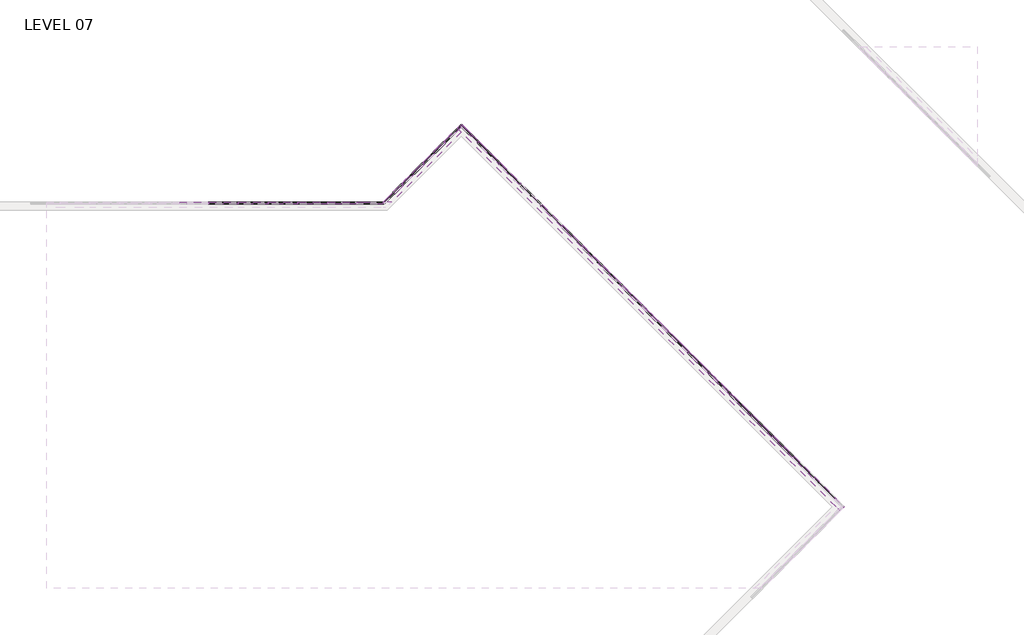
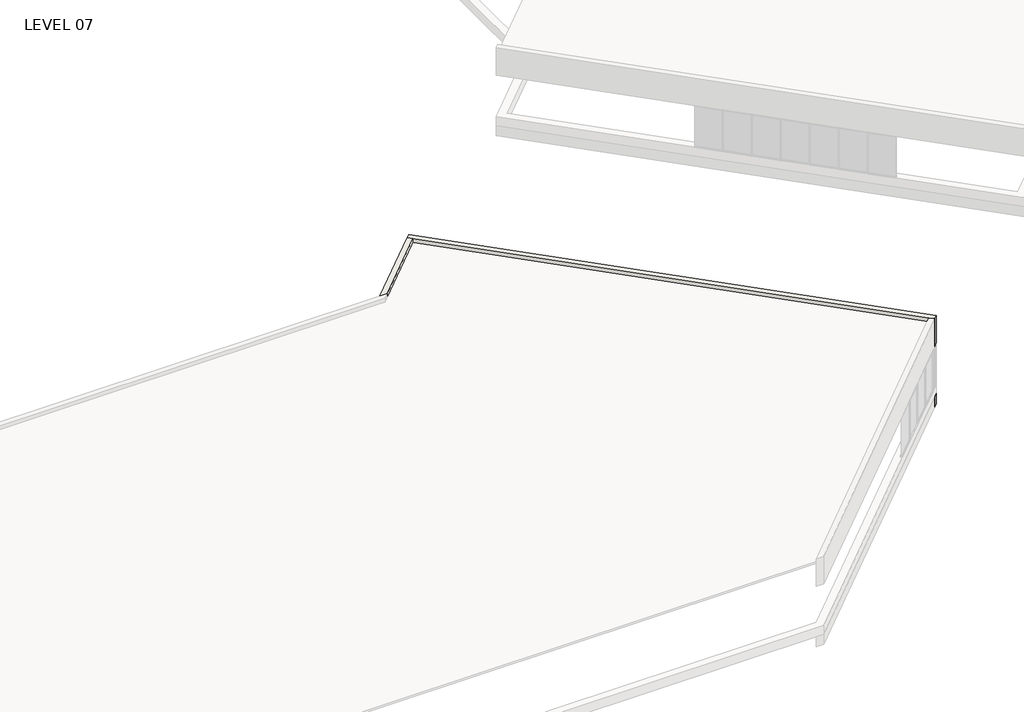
# One storey, part 9 of 18: 79 members, 27 plates, 4 walls.
"""IFC4 building model written with IfcOpenShell, lengths in millimetres."""

from ifc_helpers import new_model, si_unit, frame, origin, place, context, project, spatial, polyline, outline, extrude, faceted_brep, transform, mapped, element, save
from components import member_5247f267, member_e44af9ab, member_800970d4, member_45eb7f2e, member_910c08c9, member_dd9f6d43, plate_67294edd, plate_9c66726c, plate_88df3e37, plate_c3b8b83d, plate_129ab9d0, plate_6ecefdb5

model = new_model("IFC4")

# Units and contexts
model_context = context("Model", 3, world=origin())
ifc_project = project(units=[si_unit("LENGTHUNIT", "METRE", prefix="MILLI")], contexts=[model_context])

# Site, building, storey
site = spatial("IfcSite", under=ifc_project)
building = spatial("IfcBuilding", under=site)
storey = spatial("IfcBuildingStorey", under=building, Name="LEVEL 07", Elevation=23368.0)

# Members
placement = place(None, origin())
member_shape = member_5247f267(model_context)
element("IfcMember", 1, ObjectType="Rectangular Mullion : 2\" x 4.5\" rectangular", at=placement, inside=storey, context=model_context, shape_type="MappedRepresentation", body=[
    mapped(member_shape, transform((62072.0790246, 13049.7099831, 23368.0), x_axis=(0.0, 0.0, -1.0), y_axis=(0.7071067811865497, 0.7071067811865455, 0.0), z_axis=(0.7071067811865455, -0.7071067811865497, 0.0))),
])
element("IfcMember", 2, ObjectType="Rectangular Mullion : 2\" x 4.5\" rectangular", at=placement, inside=storey, context=model_context, shape_type="MappedRepresentation", body=[
    mapped(member_shape, transform((60994.4482901, 14127.3407176, 23368.0), x_axis=(0.0, 0.0, -1.0), y_axis=(0.707106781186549, 0.7071067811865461, 0.0), z_axis=(0.707106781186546, -0.7071067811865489, 0.0))),
])
element("IfcMember", 3, ObjectType="Rectangular Mullion : 2\" x 4.5\" rectangular", at=placement, inside=storey, context=model_context, shape_type="MappedRepresentation", body=[
    mapped(member_shape, transform((58839.186821, 16282.6021867, 23368.0), x_axis=(0.0, 0.0, -1.0), y_axis=(0.707106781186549, 0.7071067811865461, 0.0), z_axis=(0.707106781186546, -0.7071067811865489, 0.0))),
])
element("IfcMember", 4, ObjectType="Rectangular Mullion : 2\" x 4.5\" rectangular", at=placement, inside=storey, context=model_context, shape_type="MappedRepresentation", body=[
    mapped(member_shape, transform((57761.5560865, 17360.2329212, 23368.0), x_axis=(0.0, 0.0, -1.0), y_axis=(0.707106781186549, 0.7071067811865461, 0.0), z_axis=(0.7071067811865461, -0.707106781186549, 0.0))),
])
element("IfcMember", 5, ObjectType="Rectangular Mullion : 2\" x 4.5\" rectangular", at=placement, inside=storey, context=model_context, shape_type="MappedRepresentation", body=[
    mapped(member_shape, transform((56683.925352, 18437.8636558, 23368.0), x_axis=(0.0, 0.0, -1.0), y_axis=(0.707106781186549, 0.7071067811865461, 0.0), z_axis=(0.707106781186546, -0.7071067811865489, 0.0))),
])
element("IfcMember", 6, ObjectType="Rectangular Mullion : 2\" x 4.5\" rectangular", at=placement, inside=storey, context=model_context, shape_type="MappedRepresentation", body=[
    mapped(member_shape, transform((53451.3904937, 21670.3985141, 23368.0), x_axis=(0.0, 0.0, -1.0), y_axis=(0.7071067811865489, 0.7071067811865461, 0.0), z_axis=(0.7071067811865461, -0.7071067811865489, 0.0))),
])
element("IfcMember", 7, ObjectType="Rectangular Mullion : 2\" x 4.5\" rectangular", at=placement, inside=storey, context=model_context, shape_type="MappedRepresentation", body=[
    mapped(member_shape, transform((52373.7597592, 22748.0292486, 23368.0), x_axis=(0.0, 0.0, -1.0), y_axis=(0.7071067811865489, 0.7071067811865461, 0.0), z_axis=(0.7071067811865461, -0.7071067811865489, 0.0))),
])
element("IfcMember", 8, ObjectType="Rectangular Mullion : 2\" x 4.5\" rectangular", at=placement, inside=storey, context=model_context, shape_type="MappedRepresentation", body=[
    mapped(member_shape, transform((51296.1290246, 23825.6599831, 23368.0), x_axis=(0.0, 0.0, -1.0), y_axis=(0.707106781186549, 0.7071067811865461, 0.0), z_axis=(0.707106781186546, -0.7071067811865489, 0.0))),
])
element("IfcMember", 9, ObjectType="Rectangular Mullion : 2\" x 4.5\" rectangular", at=placement, inside=storey, context=model_context, shape_type="MappedRepresentation", body=[
    mapped(member_shape, transform((59916.8175556, 15204.9714522, 23368.0), x_axis=(0.0, 0.0, -1.0), y_axis=(0.707106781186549, 0.7071067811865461, 0.0), z_axis=(0.707106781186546, -0.7071067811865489, 0.0))),
])
element("IfcMember", 10, ObjectType="Rectangular Mullion : 2\" x 4.5\" rectangular", at=placement, inside=storey, context=model_context, shape_type="MappedRepresentation", body=[
    mapped(member_shape, transform((49140.8675556, 25980.9214522, 23368.0), x_axis=(0.0, 0.0, -1.0), y_axis=(0.707106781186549, 0.7071067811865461, 0.0), z_axis=(0.7071067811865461, -0.707106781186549, 0.0))),
])
element("IfcMember", 11, ObjectType="Rectangular Mullion : 2\" x 4.5\" rectangular", at=placement, inside=storey, context=model_context, shape_type="MappedRepresentation", body=[
    mapped(member_shape, transform((46985.6060865, 28136.1829212, 23368.0), x_axis=(0.0, 0.0, -1.0), y_axis=(0.7071067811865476, 0.7071067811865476, 0.0), z_axis=(0.7071067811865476, -0.7071067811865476, 0.0))),
])
element("IfcMember", 12, ObjectType="Rectangular Mullion : 2\" x 4.5\" rectangular", at=placement, inside=storey, context=model_context, shape_type="MappedRepresentation", body=[
    mapped(member_shape, transform((44188.0075145, 29177.8965222, 23368.0), x_axis=(0.0, 0.0, -1.0), y_axis=(-0.7071067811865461, 0.7071067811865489, 0.0), z_axis=(0.7071067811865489, 0.7071067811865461, 0.0))),
])
element("IfcMember", 13, ObjectType="Rectangular Mullion : 2\" x 4.5\" rectangular", at=placement, inside=storey, context=model_context, shape_type="MappedRepresentation", body=[
    mapped(member_shape, transform((43110.3767799, 28100.2657877, 23368.0), x_axis=(0.0, 0.0, -1.0), y_axis=(-0.7071067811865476, 0.7071067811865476, 0.0), z_axis=(0.7071067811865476, 0.7071067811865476, 0.0))),
])
element("IfcMember", 14, ObjectType="Rectangular Mullion : 2\" x 4.5\" rectangular", at=placement, inside=storey, context=model_context, shape_type="MappedRepresentation", body=[
    mapped(member_shape, transform((32137.35, 26080.1328721, 23368.0), x_axis=(0.0, 0.0, -1.0), y_axis=(0.0, -1.0, 0.0), z_axis=(-1.0, 0.0, 0.0))),
])
element("IfcMember", 15, ObjectType="Rectangular Mullion : 2\" x 4.5\" rectangular", at=placement, inside=storey, context=model_context, shape_type="MappedRepresentation", body=[
    mapped(member_shape, transform((35185.35, 26080.1328721, 23368.0), x_axis=(0.0, 0.0, -1.0), y_axis=(0.0, -1.0, 0.0), z_axis=(-1.0, 0.0, 0.0))),
])
element("IfcMember", 16, ObjectType="Rectangular Mullion : 2\" x 4.5\" rectangular", at=placement, inside=storey, context=model_context, shape_type="MappedRepresentation", body=[
    mapped(member_shape, transform((36709.35, 26080.1328721, 23368.0), x_axis=(0.0, 0.0, -1.0), y_axis=(0.0, -1.0, 0.0), z_axis=(-1.0, 0.0, 0.0))),
])
element("IfcMember", 17, ObjectType="Rectangular Mullion : 2\" x 4.5\" rectangular", at=placement, inside=storey, context=model_context, shape_type="MappedRepresentation", body=[
    mapped(member_shape, transform((38233.35, 26080.1328721, 23368.0), x_axis=(0.0, 0.0, -1.0), y_axis=(0.0, -1.0, 0.0), z_axis=(-1.0, 0.0, 0.0))),
])
element("IfcMember", 18, ObjectType="Rectangular Mullion : 2\" x 4.5\" rectangular", at=placement, inside=storey, context=model_context, shape_type="MappedRepresentation", body=[
    mapped(member_shape, transform((33661.35, 26080.1328721, 23368.0), x_axis=(0.0, 0.0, -1.0), y_axis=(0.0, -1.0, 0.0), z_axis=(-1.0, 0.0, 0.0))),
])
element("IfcMember", 19, ObjectType="Rectangular Mullion : 2\" x 4.5\" rectangular", at=placement, inside=storey, context=model_context, shape_type="MappedRepresentation", body=[
    mapped(member_shape, transform((62108.0000491, 13013.7889586, 25958.8), x_axis=(0.0, 0.0, 1.0), y_axis=(0.7071067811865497, 0.7071067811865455, 0.0), z_axis=(-0.7071067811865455, 0.7071067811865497, 0.0))),
])
element("IfcMember", 20, ObjectType="Rectangular Mullion : 2\" x 4.5\" rectangular", at=placement, inside=storey, context=model_context, shape_type="MappedRepresentation", body=[
    mapped(member_shape, transform((61030.3693146, 14091.4196932, 25958.8), x_axis=(0.0, 0.0, 1.0), y_axis=(0.7071067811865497, 0.7071067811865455, 0.0), z_axis=(-0.7071067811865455, 0.7071067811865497, 0.0))),
])
element("IfcMember", 21, ObjectType="Rectangular Mullion : 2\" x 4.5\" rectangular", at=placement, inside=storey, context=model_context, shape_type="MappedRepresentation", body=[
    mapped(member_shape, transform((58875.1078455, 16246.6811622, 25958.8), x_axis=(0.0, 0.0, 1.0), y_axis=(0.707106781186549, 0.7071067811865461, 0.0), z_axis=(-0.707106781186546, 0.7071067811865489, 0.0))),
])
element("IfcMember", 22, ObjectType="Rectangular Mullion : 2\" x 4.5\" rectangular", at=placement, inside=storey, context=model_context, shape_type="MappedRepresentation", body=[
    mapped(member_shape, transform((57797.477111, 17324.3118967, 25958.8), x_axis=(0.0, 0.0, 1.0), y_axis=(0.707106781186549, 0.7071067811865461, 0.0), z_axis=(-0.707106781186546, 0.7071067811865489, 0.0))),
])
element("IfcMember", 23, ObjectType="Rectangular Mullion : 2\" x 4.5\" rectangular", at=placement, inside=storey, context=model_context, shape_type="MappedRepresentation", body=[
    mapped(member_shape, transform((56719.8463765, 18401.9426313, 25958.8), x_axis=(0.0, 0.0, 1.0), y_axis=(0.7071067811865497, 0.7071067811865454, 0.0), z_axis=(-0.7071067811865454, 0.7071067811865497, 0.0))),
])
element("IfcMember", 24, ObjectType="Rectangular Mullion : 2\" x 4.5\" rectangular", at=placement, inside=storey, context=model_context, shape_type="MappedRepresentation", body=[
    mapped(member_shape, transform((55642.2156419, 19479.5733658, 25958.8), x_axis=(0.0, 0.0, 1.0), y_axis=(0.7071067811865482, 0.7071067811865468, 0.0), z_axis=(-0.7071067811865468, 0.7071067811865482, 0.0))),
])
element("IfcMember", 25, ObjectType="Rectangular Mullion : 2\" x 4.5\" rectangular", at=placement, inside=storey, context=model_context, shape_type="MappedRepresentation", body=[
    mapped(member_shape, transform((52409.6807836, 22712.1082241, 25958.8), x_axis=(0.0, 0.0, 1.0), y_axis=(0.7071067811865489, 0.7071067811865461, 0.0), z_axis=(-0.7071067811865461, 0.7071067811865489, 0.0))),
])
element("IfcMember", 26, ObjectType="Rectangular Mullion : 2\" x 4.5\" rectangular", at=placement, inside=storey, context=model_context, shape_type="MappedRepresentation", body=[
    mapped(member_shape, transform((51332.0500491, 23789.7389586, 25958.8), x_axis=(0.0, 0.0, 1.0), y_axis=(0.7071067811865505, 0.7071067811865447, 0.0), z_axis=(-0.7071067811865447, 0.7071067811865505, 0.0))),
])
element("IfcMember", 27, ObjectType="Rectangular Mullion : 2\" x 4.5\" rectangular", at=placement, inside=storey, context=model_context, shape_type="MappedRepresentation", body=[
    mapped(member_shape, transform((59952.7385801, 15169.0504277, 25958.8), x_axis=(0.0, 0.0, 1.0), y_axis=(0.707106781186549, 0.7071067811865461, 0.0), z_axis=(-0.707106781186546, 0.7071067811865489, 0.0))),
])
element("IfcMember", 28, ObjectType="Rectangular Mullion : 2\" x 4.5\" rectangular", at=placement, inside=storey, context=model_context, shape_type="MappedRepresentation", body=[
    mapped(member_shape, transform((50254.4193146, 24867.3696932, 25958.8), x_axis=(0.0, 0.0, 1.0), y_axis=(0.7071067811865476, 0.7071067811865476, 0.0), z_axis=(-0.7071067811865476, 0.7071067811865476, 0.0))),
])
element("IfcMember", 29, ObjectType="Rectangular Mullion : 2\" x 4.5\" rectangular", at=placement, inside=storey, context=model_context, shape_type="MappedRepresentation", body=[
    mapped(member_shape, transform((49176.7885801, 25945.0004277, 25958.8), x_axis=(0.0, 0.0, 1.0), y_axis=(0.707106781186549, 0.7071067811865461, 0.0), z_axis=(-0.707106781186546, 0.7071067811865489, 0.0))),
])
element("IfcMember", 30, ObjectType="Rectangular Mullion : 2\" x 4.5\" rectangular", at=placement, inside=storey, context=model_context, shape_type="MappedRepresentation", body=[
    mapped(member_shape, transform((47021.527111, 28100.2618967, 25958.8), x_axis=(0.0, 0.0, 1.0), y_axis=(0.7071067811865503, 0.7071067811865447, 0.0), z_axis=(-0.7071067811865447, 0.7071067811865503, 0.0))),
])
element("IfcMember", 31, ObjectType="Rectangular Mullion : 2\" x 4.5\" rectangular", at=placement, inside=storey, context=model_context, shape_type="MappedRepresentation", body=[
    mapped(member_shape, transform((45943.8963765, 29177.8926313, 25958.8), x_axis=(0.0, 0.0, 1.0), y_axis=(0.7071067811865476, 0.7071067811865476, 0.0), z_axis=(-0.7071067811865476, 0.7071067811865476, 0.0))),
])
element("IfcMember", 32, ObjectType="Rectangular Mullion : 2\" x 4.5\" rectangular", at=placement, inside=storey, context=model_context, shape_type="MappedRepresentation", body=[
    mapped(member_shape, transform((42068.6670699, 27058.5560776, 25958.8), x_axis=(0.0, 0.0, 1.0), y_axis=(-0.7071067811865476, 0.7071067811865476, 0.0), z_axis=(-0.7071067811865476, -0.7071067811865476, 0.0))),
])
element("IfcMember", 33, ObjectType="Rectangular Mullion : 2\" x 4.5\" rectangular", at=placement, inside=storey, context=model_context, shape_type="MappedRepresentation", body=[
    mapped(member_shape, transform((43146.2978044, 28136.1868122, 25958.8), x_axis=(0.0, 0.0, 1.0), y_axis=(-0.7071067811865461, 0.7071067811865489, 0.0), z_axis=(-0.7071067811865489, -0.7071067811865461, 0.0))),
])
element("IfcMember", 34, ObjectType="Rectangular Mullion : 2\" x 4.5\" rectangular", at=placement, inside=storey, context=model_context, shape_type="MappedRepresentation", body=[
    mapped(member_shape, transform((32086.55, 26080.1328721, 25958.8), x_axis=(0.0, 0.0, 1.0), y_axis=(0.0, -1.0, 0.0), z_axis=(1.0, 0.0, 0.0))),
])
element("IfcMember", 35, ObjectType="Rectangular Mullion : 2\" x 4.5\" rectangular", at=placement, inside=storey, context=model_context, shape_type="MappedRepresentation", body=[
    mapped(member_shape, transform((35134.55, 26080.1328721, 25958.8), x_axis=(0.0, 0.0, 1.0), y_axis=(0.0, -1.0, 0.0), z_axis=(1.0, 0.0, 0.0))),
])
element("IfcMember", 36, ObjectType="Rectangular Mullion : 2\" x 4.5\" rectangular", at=placement, inside=storey, context=model_context, shape_type="MappedRepresentation", body=[
    mapped(member_shape, transform((36658.55, 26080.1328721, 25958.8), x_axis=(0.0, 0.0, 1.0), y_axis=(0.0, -1.0, 0.0), z_axis=(1.0, 0.0, 0.0))),
])
element("IfcMember", 37, ObjectType="Rectangular Mullion : 2\" x 4.5\" rectangular", at=placement, inside=storey, context=model_context, shape_type="MappedRepresentation", body=[
    mapped(member_shape, transform((38182.55, 26080.1328721, 25958.8), x_axis=(0.0, 0.0, 1.0), y_axis=(0.0, -1.0, 0.0), z_axis=(1.0, 0.0, 0.0))),
])
element("IfcMember", 38, ObjectType="Rectangular Mullion : 2\" x 4.5\" rectangular", at=placement, inside=storey, context=model_context, shape_type="MappedRepresentation", body=[
    mapped(member_shape, transform((39706.55, 26080.1328721, 25958.8), x_axis=(0.0, 0.0, 1.0), y_axis=(0.0, -1.0, 0.0), z_axis=(1.0, 0.0, 0.0))),
])
element("IfcMember", 39, ObjectType="Rectangular Mullion : 2\" x 4.5\" rectangular", at=placement, inside=storey, context=model_context, shape_type="MappedRepresentation", body=[
    mapped(member_shape, transform((33610.55, 26080.1328721, 25958.8), x_axis=(0.0, 0.0, 1.0), y_axis=(0.0, -1.0, 0.0), z_axis=(1.0, 0.0, 0.0))),
])
member_2_shape = member_e44af9ab(model_context)
element("IfcMember", 40, ObjectType="Rectangular Mullion : 2\" x 4.5\" rectangular", at=placement, inside=storey, context=model_context, shape_type="MappedRepresentation", body=[
    mapped(member_2_shape, transform((63167.6702714, 11954.1187363, 23368.0), x_axis=(-0.7071067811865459, 0.7071067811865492, 0.0), y_axis=(0.7071067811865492, 0.7071067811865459, 0.0), z_axis=(0.0, 0.0, -1.0))),
])
element("IfcMember", 41, ObjectType="Rectangular Mullion : 2\" x 4.5\" rectangular", at=placement, inside=storey, context=model_context, shape_type="MappedRepresentation", body=[
    mapped(member_2_shape, transform((62090.0395369, 13031.7494709, 23368.0), x_axis=(-0.7071067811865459, 0.7071067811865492, 0.0), y_axis=(0.7071067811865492, 0.7071067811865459, 0.0), z_axis=(0.0, 0.0, -1.0))),
])
element("IfcMember", 42, ObjectType="Rectangular Mullion : 2\" x 4.5\" rectangular", at=placement, inside=storey, context=model_context, shape_type="MappedRepresentation", body=[
    mapped(member_2_shape, transform((61012.4088023, 14109.3802054, 23368.0), x_axis=(-0.7071067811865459, 0.7071067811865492, 0.0), y_axis=(0.7071067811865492, 0.7071067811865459, 0.0), z_axis=(0.0, 0.0, -1.0))),
])
element("IfcMember", 43, ObjectType="Rectangular Mullion : 2\" x 4.5\" rectangular", at=placement, inside=storey, context=model_context, shape_type="MappedRepresentation", body=[
    mapped(member_2_shape, transform((58857.1473333, 16264.6416745, 23368.0), x_axis=(-0.7071067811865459, 0.7071067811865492, 0.0), y_axis=(0.7071067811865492, 0.7071067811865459, 0.0), z_axis=(0.0, 0.0, -1.0))),
])
element("IfcMember", 44, ObjectType="Rectangular Mullion : 2\" x 4.5\" rectangular", at=placement, inside=storey, context=model_context, shape_type="MappedRepresentation", body=[
    mapped(member_2_shape, transform((57779.5165988, 17342.272409, 23368.0), x_axis=(-0.7071067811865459, 0.7071067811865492, 0.0), y_axis=(0.7071067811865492, 0.7071067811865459, 0.0), z_axis=(0.0, 0.0, -1.0))),
])
element("IfcMember", 45, ObjectType="Rectangular Mullion : 2\" x 4.5\" rectangular", at=placement, inside=storey, context=model_context, shape_type="MappedRepresentation", body=[
    mapped(member_2_shape, transform((56701.8858642, 18419.9031435, 23368.0), x_axis=(-0.7071067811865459, 0.7071067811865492, 0.0), y_axis=(0.7071067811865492, 0.7071067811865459, 0.0), z_axis=(0.0, 0.0, -1.0))),
])
element("IfcMember", 46, ObjectType="Rectangular Mullion : 2\" x 4.5\" rectangular", at=placement, inside=storey, context=model_context, shape_type="MappedRepresentation", body=[
    mapped(member_2_shape, transform((55624.2551297, 19497.533878, 23368.0), x_axis=(-0.7071067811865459, 0.7071067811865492, 0.0), y_axis=(0.7071067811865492, 0.7071067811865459, 0.0), z_axis=(0.0, 0.0, -1.0))),
])
element("IfcMember", 47, ObjectType="Rectangular Mullion : 2\" x 4.5\" rectangular", at=placement, inside=storey, context=model_context, shape_type="MappedRepresentation", body=[
    mapped(member_2_shape, transform((53469.3510059, 21652.4380018, 23368.0), x_axis=(-0.7071067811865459, 0.7071067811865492, 0.0), y_axis=(0.7071067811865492, 0.7071067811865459, 0.0), z_axis=(0.0, 0.0, -1.0))),
])
element("IfcMember", 48, ObjectType="Rectangular Mullion : 2\" x 4.5\" rectangular", at=placement, inside=storey, context=model_context, shape_type="MappedRepresentation", body=[
    mapped(member_2_shape, transform((52391.7202714, 22730.0687363, 23368.0), x_axis=(-0.7071067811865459, 0.7071067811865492, 0.0), y_axis=(0.7071067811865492, 0.7071067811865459, 0.0), z_axis=(0.0, 0.0, -1.0))),
])
element("IfcMember", 49, ObjectType="Rectangular Mullion : 2\" x 4.5\" rectangular", at=placement, inside=storey, context=model_context, shape_type="MappedRepresentation", body=[
    mapped(member_2_shape, transform((51314.0895369, 23807.6994709, 23368.0), x_axis=(-0.7071067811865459, 0.7071067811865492, 0.0), y_axis=(0.7071067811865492, 0.7071067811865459, 0.0), z_axis=(0.0, 0.0, -1.0))),
])
element("IfcMember", 50, ObjectType="Rectangular Mullion : 2\" x 4.5\" rectangular", at=placement, inside=storey, context=model_context, shape_type="MappedRepresentation", body=[
    mapped(member_2_shape, transform((59934.7780678, 15187.0109399, 23368.0), x_axis=(-0.7071067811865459, 0.7071067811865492, 0.0), y_axis=(0.7071067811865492, 0.7071067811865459, 0.0), z_axis=(0.0, 0.0, -1.0))),
])
element("IfcMember", 51, ObjectType="Rectangular Mullion : 2\" x 4.5\" rectangular", at=placement, inside=storey, context=model_context, shape_type="MappedRepresentation", body=[
    mapped(member_2_shape, transform((54546.8030678, 20574.9859399, 23368.0), x_axis=(-0.7071067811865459, 0.7071067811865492, 0.0), y_axis=(0.7071067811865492, 0.7071067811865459, 0.0), z_axis=(0.0, 0.0, -1.0))),
])
element("IfcMember", 52, ObjectType="Rectangular Mullion : 2\" x 4.5\" rectangular", at=placement, inside=storey, context=model_context, shape_type="MappedRepresentation", body=[
    mapped(member_2_shape, transform((49158.8280678, 25962.9609399, 23368.0), x_axis=(-0.7071067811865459, 0.7071067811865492, 0.0), y_axis=(0.7071067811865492, 0.7071067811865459, 0.0), z_axis=(0.0, 0.0, -1.0))),
])
element("IfcMember", 53, ObjectType="Rectangular Mullion : 2\" x 4.5\" rectangular", at=placement, inside=storey, context=model_context, shape_type="MappedRepresentation", body=[
    mapped(member_2_shape, transform((47003.5665988, 28118.222409, 23368.0), x_axis=(-0.7071067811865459, 0.7071067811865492, 0.0), y_axis=(0.7071067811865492, 0.7071067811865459, 0.0), z_axis=(0.0, 0.0, -1.0))),
])
element("IfcMember", 54, ObjectType="Rectangular Mullion : 2\" x 4.5\" rectangular", at=placement, inside=storey, context=model_context, shape_type="MappedRepresentation", body=[
    mapped(member_2_shape, transform((45925.9358642, 29195.8531435, 23368.0), x_axis=(-0.7071067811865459, 0.7071067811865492, 0.0), y_axis=(0.7071067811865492, 0.7071067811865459, 0.0), z_axis=(0.0, 0.0, -1.0))),
])
element("IfcMember", 55, ObjectType="Rectangular Mullion : 2\" x 4.5\" rectangular", at=placement, inside=storey, context=model_context, shape_type="MappedRepresentation", body=[
    mapped(member_2_shape, transform((44205.9680267, 29195.8570344, 23368.0), x_axis=(-0.7071067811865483, -0.7071067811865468, 0.0), y_axis=(-0.7071067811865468, 0.7071067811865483, 0.0), z_axis=(0.0, 0.0, -1.0))),
])
element("IfcMember", 56, ObjectType="Rectangular Mullion : 2\" x 4.5\" rectangular", at=placement, inside=storey, context=model_context, shape_type="MappedRepresentation", body=[
    mapped(member_2_shape, transform((42050.7065576, 27040.5955654, 23368.0), x_axis=(-0.7071067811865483, -0.7071067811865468, 0.0), y_axis=(-0.7071067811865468, 0.7071067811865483, 0.0), z_axis=(0.0, 0.0, -1.0))),
])
element("IfcMember", 57, ObjectType="Rectangular Mullion : 2\" x 4.5\" rectangular", at=placement, inside=storey, context=model_context, shape_type="MappedRepresentation", body=[
    mapped(member_2_shape, transform((43128.3372922, 28118.2262999, 23368.0), x_axis=(-0.7071067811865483, -0.7071067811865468, 0.0), y_axis=(-0.7071067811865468, 0.7071067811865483, 0.0), z_axis=(0.0, 0.0, -1.0))),
])
element("IfcMember", 58, ObjectType="Rectangular Mullion : 2\" x 4.5\" rectangular", at=placement, inside=storey, context=model_context, shape_type="MappedRepresentation", body=[
    mapped(member_2_shape, transform((32111.95, 26080.1328721, 23368.0), x_axis=(1.0, 0.0, 0.0), y_axis=(0.0, -1.0, 0.0), z_axis=(0.0, 0.0, -1.0))),
])
element("IfcMember", 59, ObjectType="Rectangular Mullion : 2\" x 4.5\" rectangular", at=placement, inside=storey, context=model_context, shape_type="MappedRepresentation", body=[
    mapped(member_2_shape, transform((35159.95, 26080.1328721, 23368.0), x_axis=(1.0, 0.0, 0.0), y_axis=(0.0, -1.0, 0.0), z_axis=(0.0, 0.0, -1.0))),
])
element("IfcMember", 60, ObjectType="Rectangular Mullion : 2\" x 4.5\" rectangular", at=placement, inside=storey, context=model_context, shape_type="MappedRepresentation", body=[
    mapped(member_2_shape, transform((36683.95, 26080.1328721, 23368.0), x_axis=(1.0, 0.0, 0.0), y_axis=(0.0, -1.0, 0.0), z_axis=(0.0, 0.0, -1.0))),
])
element("IfcMember", 61, ObjectType="Rectangular Mullion : 2\" x 4.5\" rectangular", at=placement, inside=storey, context=model_context, shape_type="MappedRepresentation", body=[
    mapped(member_2_shape, transform((38207.95, 26080.1328721, 23368.0), x_axis=(1.0, 0.0, 0.0), y_axis=(0.0, -1.0, 0.0), z_axis=(0.0, 0.0, -1.0))),
])
element("IfcMember", 62, ObjectType="Rectangular Mullion : 2\" x 4.5\" rectangular", at=placement, inside=storey, context=model_context, shape_type="MappedRepresentation", body=[
    mapped(member_2_shape, transform((39731.95, 26080.1328721, 23368.0), x_axis=(1.0, 0.0, 0.0), y_axis=(0.0, -1.0, 0.0), z_axis=(0.0, 0.0, -1.0))),
])
element("IfcMember", 63, ObjectType="Rectangular Mullion : 2\" x 4.5\" rectangular", at=placement, inside=storey, context=model_context, shape_type="MappedRepresentation", body=[
    mapped(member_2_shape, transform((33635.95, 26080.1328721, 23368.0), x_axis=(1.0, 0.0, 0.0), y_axis=(0.0, -1.0, 0.0), z_axis=(0.0, 0.0, -1.0))),
])
member_3_shape = member_800970d4(model_context)
element("IfcMember", 64, ObjectType="Rectangular Mullion : 2\" x 4.5\" rectangular", at=placement, inside=storey, context=model_context, shape_type="MappedRepresentation", body=[
    mapped(member_3_shape, transform((45065.95, 30055.8390077, 23368.0), x_axis=(-0.7071067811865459, 0.7071067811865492, 0.0), y_axis=(0.7071067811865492, 0.7071067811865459, 0.0), z_axis=(0.0, 0.0, -1.0))),
])
element("IfcMember", 65, ObjectType="Rectangular Mullion : 2\" x 4.5\" rectangular", at=placement, inside=storey, context=model_context, shape_type="MappedRepresentation", body=[
    mapped(member_3_shape, transform((41090.2438644, 26080.1328721, 23368.0), x_axis=(-0.7071067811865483, -0.7071067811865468, 0.0), y_axis=(-0.7071067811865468, 0.7071067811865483, 0.0), z_axis=(0.0, 0.0, -1.0))),
])
element("IfcMember", 66, ObjectType="Rectangular Mullion : 2\" x 4.5\" rectangular", at=placement, inside=storey, context=model_context, shape_type="MappedRepresentation", body=[
    mapped(member_3_shape, transform((41090.2438644, 26080.1328721, 23368.0), x_axis=(1.0, 0.0, 0.0), y_axis=(0.0, -1.0, 0.0), z_axis=(0.0, 0.0, -1.0))),
])
element("IfcMember", 67, ObjectType="Rectangular Mullion : 2\" x 4.5\" rectangular", at=placement, inside=storey, context=model_context, shape_type="MappedRepresentation", body=[
    mapped(member_3_shape, transform((45065.95, 30055.8390077, 25958.8), x_axis=(0.7071067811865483, 0.7071067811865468, 0.0), y_axis=(-0.7071067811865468, 0.7071067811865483, 0.0), z_axis=(0.0, 0.0, 1.0))),
])
member_4_shape = member_45eb7f2e(model_context)
element("IfcMember", 68, ObjectType="Rectangular Mullion : 2\" x 4.5\" rectangular", at=placement, inside=storey, context=model_context, shape_type="MappedRepresentation", body=[
    mapped(member_4_shape, transform((41126.1648889, 26116.0538966, 25958.8), x_axis=(0.0, 0.0, 1.0), y_axis=(-0.7071067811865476, 0.7071067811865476, 0.0), z_axis=(-0.7071067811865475, -0.7071067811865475, 0.0))),
])
element("IfcMember", 69, ObjectType="Rectangular Mullion : 2\" x 4.5\" rectangular", at=placement, inside=storey, context=model_context, shape_type="MappedRepresentation", body=[
    mapped(member_4_shape, transform((41039.4438644, 26080.1328721, 25958.8), x_axis=(0.0, 0.0, 1.0), y_axis=(0.0, -1.0, 0.0), z_axis=(1.0, 0.0, 0.0))),
])
element("IfcMember", 70, ObjectType="Rectangular Mullion : 2\" x 4.5\" rectangular", at=placement, inside=storey, context=model_context, shape_type="MappedRepresentation", body=[
    mapped(member_4_shape, transform((42032.7460454, 27022.6350531, 23368.0), x_axis=(0.0, 0.0, -1.0), y_axis=(-0.7071067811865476, 0.7071067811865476, 0.0), z_axis=(0.7071067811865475, 0.7071067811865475, 0.0))),
])
element("IfcMember", 71, ObjectType="Rectangular Mullion : 2\" x 4.5\" rectangular", at=placement, inside=storey, context=model_context, shape_type="MappedRepresentation", body=[
    mapped(member_4_shape, transform((39757.35, 26080.1328721, 23368.0), x_axis=(0.0, 0.0, -1.0), y_axis=(0.0, -1.0, 0.0), z_axis=(-1.0, 0.0, 0.0))),
])
member_5_shape = member_910c08c9(model_context)
element("IfcMember", 72, ObjectType="Rectangular Mullion : 2\" x 4.5\" rectangular", at=placement, inside=storey, context=model_context, shape_type="MappedRepresentation", body=[
    mapped(member_5_shape, transform((53487.3115182, 21634.4774896, 25958.8), x_axis=(0.0, 0.0, 1.0), y_axis=(0.707106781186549, 0.7071067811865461, 0.0), z_axis=(-0.7071067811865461, 0.707106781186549, 0.0))),
])
element("IfcMember", 73, ObjectType="Rectangular Mullion : 2\" x 4.5\" rectangular", at=placement, inside=storey, context=model_context, shape_type="MappedRepresentation", body=[
    mapped(member_5_shape, transform((54564.7635801, 20557.0254277, 25958.8), x_axis=(0.0, 0.0, 1.0), y_axis=(0.7071067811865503, 0.7071067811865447, 0.0), z_axis=(-0.7071067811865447, 0.7071067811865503, 0.0))),
])
element("IfcMember", 74, ObjectType="Rectangular Mullion : 2\" x 4.5\" rectangular", at=placement, inside=storey, context=model_context, shape_type="MappedRepresentation", body=[
    mapped(member_5_shape, transform((55606.2946175, 19515.4943903, 23368.0), x_axis=(0.0, 0.0, -1.0), y_axis=(0.7071067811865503, 0.7071067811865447, 0.0), z_axis=(0.7071067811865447, -0.7071067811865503, 0.0))),
])
element("IfcMember", 75, ObjectType="Rectangular Mullion : 2\" x 4.5\" rectangular", at=placement, inside=storey, context=model_context, shape_type="MappedRepresentation", body=[
    mapped(member_5_shape, transform((54528.8425556, 20592.9464522, 23368.0), x_axis=(0.0, 0.0, -1.0), y_axis=(0.707106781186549, 0.7071067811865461, 0.0), z_axis=(0.7071067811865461, -0.707106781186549, 0.0))),
])
member_6_shape = member_dd9f6d43(model_context)
element("IfcMember", 76, ObjectType="Rectangular Mullion : 2\" x 4.5\" rectangular", at=placement, inside=storey, context=model_context, shape_type="MappedRepresentation", body=[
    mapped(member_6_shape, transform((45101.8710245, 30019.9179833, 25958.8), x_axis=(0.0, 0.0, 1.0), y_axis=(0.7071067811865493, 0.7071067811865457, 0.0), z_axis=(-0.7071067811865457, 0.7071067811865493, 0.0))),
])
element("IfcMember", 77, ObjectType="Rectangular Mullion : 2\" x 4.5\" rectangular", at=placement, inside=storey, context=model_context, shape_type="MappedRepresentation", body=[
    mapped(member_6_shape, transform((44223.9285389, 29213.8175467, 25958.8), x_axis=(0.0, 0.0, 1.0), y_axis=(-0.7071067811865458, 0.7071067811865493, 0.0), z_axis=(-0.7071067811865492, -0.7071067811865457, 0.0))),
])
element("IfcMember", 78, ObjectType="Rectangular Mullion : 2\" x 4.5\" rectangular", at=placement, inside=storey, context=model_context, shape_type="MappedRepresentation", body=[
    mapped(member_6_shape, transform((45907.975352, 29213.8136558, 23368.0), x_axis=(0.0, 0.0, -1.0), y_axis=(0.7071067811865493, 0.7071067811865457, 0.0), z_axis=(0.7071067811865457, -0.7071067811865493, 0.0))),
])
element("IfcMember", 79, ObjectType="Rectangular Mullion : 2\" x 4.5\" rectangular", at=placement, inside=storey, context=model_context, shape_type="MappedRepresentation", body=[
    mapped(member_6_shape, transform((45030.0289755, 30019.9179833, 23368.0), x_axis=(0.0, 0.0, -1.0), y_axis=(-0.7071067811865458, 0.7071067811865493, 0.0), z_axis=(0.7071067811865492, 0.7071067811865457, 0.0))),
])

# Plates
plate_shape = plate_67294edd(model_context)
element("IfcPlate", 80, ObjectType="System Panel : 1/4\" Glass", at=placement, inside=storey, context=model_context, shape_type="MappedRepresentation", body=[
    mapped(plate_shape, transform((62628.8549041, 12492.9341036, 23418.8), x_axis=(-0.7071067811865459, 0.7071067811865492, 0.0), y_axis=(-0.7071067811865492, -0.7071067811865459, 0.0), z_axis=(0.0, 0.0, 1.0))),
])
element("IfcPlate", 81, ObjectType="System Panel : 1/4\" Glass", at=placement, inside=storey, context=model_context, shape_type="MappedRepresentation", body=[
    mapped(plate_shape, transform((61551.2241696, 13570.5648381, 23418.8), x_axis=(-0.7071067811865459, 0.7071067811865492, 0.0), y_axis=(-0.7071067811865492, -0.7071067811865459, 0.0), z_axis=(0.0, 0.0, 1.0))),
])
element("IfcPlate", 82, ObjectType="System Panel : 1/4\" Glass", at=placement, inside=storey, context=model_context, shape_type="MappedRepresentation", body=[
    mapped(plate_shape, transform((60473.5934351, 14648.1955727, 23418.8), x_axis=(-0.7071067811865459, 0.7071067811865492, 0.0), y_axis=(-0.7071067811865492, -0.7071067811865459, 0.0), z_axis=(0.0, 0.0, 1.0))),
])
element("IfcPlate", 83, ObjectType="System Panel : 1/4\" Glass", at=placement, inside=storey, context=model_context, shape_type="MappedRepresentation", body=[
    mapped(plate_shape, transform((58318.331966, 16803.4570417, 23418.8), x_axis=(-0.7071067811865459, 0.7071067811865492, 0.0), y_axis=(-0.7071067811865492, -0.7071067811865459, 0.0), z_axis=(0.0, 0.0, 1.0))),
])
element("IfcPlate", 84, ObjectType="System Panel : 1/4\" Glass", at=placement, inside=storey, context=model_context, shape_type="MappedRepresentation", body=[
    mapped(plate_shape, transform((57240.7012315, 17881.0877763, 23418.8), x_axis=(-0.7071067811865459, 0.7071067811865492, 0.0), y_axis=(-0.7071067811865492, -0.7071067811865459, 0.0), z_axis=(0.0, 0.0, 1.0))),
])
element("IfcPlate", 85, ObjectType="System Panel : 1/4\" Glass", at=placement, inside=storey, context=model_context, shape_type="MappedRepresentation", body=[
    mapped(plate_shape, transform((56163.070497, 18958.7185108, 23418.8), x_axis=(-0.7071067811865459, 0.7071067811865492, 0.0), y_axis=(-0.7071067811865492, -0.7071067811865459, 0.0), z_axis=(0.0, 0.0, 1.0))),
])
element("IfcPlate", 86, ObjectType="System Panel : 1/4\" Glass", at=placement, inside=storey, context=model_context, shape_type="MappedRepresentation", body=[
    mapped(plate_shape, transform((52930.5356387, 22191.2533691, 23418.8), x_axis=(-0.7071067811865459, 0.7071067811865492, 0.0), y_axis=(-0.7071067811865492, -0.7071067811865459, 0.0), z_axis=(0.0, 0.0, 1.0))),
])
element("IfcPlate", 87, ObjectType="System Panel : 1/4\" Glass", at=placement, inside=storey, context=model_context, shape_type="MappedRepresentation", body=[
    mapped(plate_shape, transform((51852.9049041, 23268.8841036, 23418.8), x_axis=(-0.7071067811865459, 0.7071067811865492, 0.0), y_axis=(-0.7071067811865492, -0.7071067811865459, 0.0), z_axis=(0.0, 0.0, 1.0))),
])
element("IfcPlate", 88, ObjectType="System Panel : 1/4\" Glass", at=placement, inside=storey, context=model_context, shape_type="MappedRepresentation", body=[
    mapped(plate_shape, transform((50775.2741696, 24346.5148381, 23418.8), x_axis=(-0.7071067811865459, 0.7071067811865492, 0.0), y_axis=(-0.7071067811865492, -0.7071067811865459, 0.0), z_axis=(0.0, 0.0, 1.0))),
])
element("IfcPlate", 89, ObjectType="System Panel : 1/4\" Glass", at=placement, inside=storey, context=model_context, shape_type="MappedRepresentation", body=[
    mapped(plate_shape, transform((59395.9627005, 15725.8263072, 23418.8), x_axis=(-0.7071067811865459, 0.7071067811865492, 0.0), y_axis=(-0.7071067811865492, -0.7071067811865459, 0.0), z_axis=(0.0, 0.0, 1.0))),
])
element("IfcPlate", 90, ObjectType="System Panel : 1/4\" Glass", at=placement, inside=storey, context=model_context, shape_type="MappedRepresentation", body=[
    mapped(plate_shape, transform((63706.4856387, 11415.3033691, 23418.8), x_axis=(-0.7071067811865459, 0.7071067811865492, 0.0), y_axis=(-0.7071067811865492, -0.7071067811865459, 0.0), z_axis=(0.0, 0.0, 1.0))),
])
element("IfcPlate", 91, ObjectType="System Panel : 1/4\" Glass", at=placement, inside=storey, context=model_context, shape_type="MappedRepresentation", body=[
    mapped(plate_shape, transform((49697.6434351, 25424.1455727, 23418.8), x_axis=(-0.7071067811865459, 0.7071067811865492, 0.0), y_axis=(-0.7071067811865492, -0.7071067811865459, 0.0), z_axis=(0.0, 0.0, 1.0))),
])
element("IfcPlate", 92, ObjectType="System Panel : 1/4\" Glass", at=placement, inside=storey, context=model_context, shape_type="MappedRepresentation", body=[
    mapped(plate_shape, transform((47542.381966, 27579.4070417, 23418.8), x_axis=(-0.7071067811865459, 0.7071067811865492, 0.0), y_axis=(-0.7071067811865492, -0.7071067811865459, 0.0), z_axis=(0.0, 0.0, 1.0))),
])
element("IfcPlate", 93, ObjectType="System Panel : 1/4\" Glass", at=placement, inside=storey, context=model_context, shape_type="MappedRepresentation", body=[
    mapped(plate_shape, transform((46464.7512315, 28657.0377763, 23418.8), x_axis=(-0.7071067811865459, 0.7071067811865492, 0.0), y_axis=(-0.7071067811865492, -0.7071067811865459, 0.0), z_axis=(0.0, 0.0, 1.0))),
])
element("IfcPlate", 94, ObjectType="System Panel : 1/4\" Glass", at=placement, inside=storey, context=model_context, shape_type="MappedRepresentation", body=[
    mapped(plate_shape, transform((43667.1526594, 28657.0416672, 23418.8), x_axis=(-0.7071067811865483, -0.7071067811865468, 0.0), y_axis=(0.7071067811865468, -0.7071067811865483, 0.0), z_axis=(0.0, 0.0, 1.0))),
])
element("IfcPlate", 95, ObjectType="System Panel : 1/4\" Glass", at=placement, inside=storey, context=model_context, shape_type="MappedRepresentation", body=[
    mapped(plate_shape, transform((42589.5219249, 27579.4109327, 23418.8), x_axis=(-0.7071067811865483, -0.7071067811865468, 0.0), y_axis=(0.7071067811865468, -0.7071067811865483, 0.0), z_axis=(0.0, 0.0, 1.0))),
])
element("IfcPlate", 96, ObjectType="System Panel : 1/4\" Glass", at=placement, inside=storey, context=model_context, shape_type="MappedRepresentation", body=[
    mapped(plate_shape, transform((32873.95, 26080.1328721, 23418.8), x_axis=(1.0, 0.0, 0.0), y_axis=(0.0, 1.0, 0.0), z_axis=(0.0, 0.0, 1.0))),
])
element("IfcPlate", 97, ObjectType="System Panel : 1/4\" Glass", at=placement, inside=storey, context=model_context, shape_type="MappedRepresentation", body=[
    mapped(plate_shape, transform((35921.95, 26080.1328721, 23418.8), x_axis=(1.0, 0.0, 0.0), y_axis=(0.0, 1.0, 0.0), z_axis=(0.0, 0.0, 1.0))),
])
element("IfcPlate", 98, ObjectType="System Panel : 1/4\" Glass", at=placement, inside=storey, context=model_context, shape_type="MappedRepresentation", body=[
    mapped(plate_shape, transform((37445.95, 26080.1328721, 23418.8), x_axis=(1.0, 0.0, 0.0), y_axis=(0.0, 1.0, 0.0), z_axis=(0.0, 0.0, 1.0))),
])
element("IfcPlate", 99, ObjectType="System Panel : 1/4\" Glass", at=placement, inside=storey, context=model_context, shape_type="MappedRepresentation", body=[
    mapped(plate_shape, transform((38969.95, 26080.1328721, 23418.8), x_axis=(1.0, 0.0, 0.0), y_axis=(0.0, 1.0, 0.0), z_axis=(0.0, 0.0, 1.0))),
])
element("IfcPlate", 100, ObjectType="System Panel : 1/4\" Glass", at=placement, inside=storey, context=model_context, shape_type="MappedRepresentation", body=[
    mapped(plate_shape, transform((34397.95, 26080.1328721, 23418.8), x_axis=(1.0, 0.0, 0.0), y_axis=(0.0, 1.0, 0.0), z_axis=(0.0, 0.0, 1.0))),
])
plate_2_shape = plate_9c66726c(model_context)
element("IfcPlate", 101, ObjectType="System Panel : 1/4\" Glass", at=placement, inside=storey, context=model_context, shape_type="MappedRepresentation", body=[
    mapped(plate_2_shape, transform((40398.3969322, 26080.1328721, 23418.8), x_axis=(1.0, 0.0, 0.0), y_axis=(0.0, 1.0, 0.0), z_axis=(0.0, 0.0, 1.0))),
])
plate_3_shape = plate_88df3e37(model_context)
element("IfcPlate", 102, ObjectType="System Panel : 1/4\" Glass", at=placement, inside=storey, context=model_context, shape_type="MappedRepresentation", body=[
    mapped(plate_3_shape, transform((55085.5290988, 20036.259909, 23418.8), x_axis=(-0.7071067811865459, 0.7071067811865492, 0.0), y_axis=(-0.7071067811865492, -0.7071067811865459, 0.0), z_axis=(0.0, 0.0, 1.0))),
])
element("IfcPlate", 103, ObjectType="System Panel : 1/4\" Glass", at=placement, inside=storey, context=model_context, shape_type="MappedRepresentation", body=[
    mapped(plate_3_shape, transform((54008.0770369, 21113.7119709, 23418.8), x_axis=(-0.7071067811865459, 0.7071067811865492, 0.0), y_axis=(-0.7071067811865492, -0.7071067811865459, 0.0), z_axis=(0.0, 0.0, 1.0))),
])
plate_4_shape = plate_c3b8b83d(model_context)
element("IfcPlate", 104, ObjectType="System Panel : 1/4\" Glass", at=placement, inside=storey, context=model_context, shape_type="MappedRepresentation", body=[
    mapped(plate_4_shape, transform((45504.9231882, 29616.8658195, 23418.8), x_axis=(-0.7071067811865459, 0.7071067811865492, 0.0), y_axis=(-0.7071067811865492, -0.7071067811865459, 0.0), z_axis=(0.0, 0.0, 1.0))),
])
plate_5_shape = plate_129ab9d0(model_context)
element("IfcPlate", 105, ObjectType="System Panel : 1/4\" Glass", at=placement, inside=storey, context=model_context, shape_type="MappedRepresentation", body=[
    mapped(plate_5_shape, transform((41579.4554671, 26569.3444749, 23418.8), x_axis=(-0.7071067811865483, -0.7071067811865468, 0.0), y_axis=(0.7071067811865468, -0.7071067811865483, 0.0), z_axis=(0.0, 0.0, 1.0))),
])
plate_6_shape = plate_6ecefdb5(model_context)
element("IfcPlate", 106, ObjectType="System Panel : 1/4\" Glass", at=placement, inside=storey, context=model_context, shape_type="MappedRepresentation", body=[
    mapped(plate_6_shape, transform((44626.9787572, 29616.867765, 23418.8), x_axis=(-0.7071067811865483, -0.7071067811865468, 0.0), y_axis=(0.7071067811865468, -0.7071067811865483, 0.0), z_axis=(0.0, 0.0, 1.0))),
])

# Walls
element("IfcWall", 107, ObjectType="01-CONCRETE-12", at=placement, inside=storey, context=model_context, shape_type="Brep", body=[
    faceted_brep([(44850.4238531, 29921.1351659, 22186.9), (45065.95, 29705.609019, 22186.9), (64277.5011469, 10494.0578721, 22186.9), (64493.0272938, 10278.5317252, 22186.9), (64493.0272938, 10278.5317252, 22809.2), (64277.5011469, 10494.0578721, 22809.2), (45065.95, 29705.609019, 22809.2), (44850.4238531, 29921.1351659, 22809.2), (45065.95, 30136.6613128, 22186.9), (45065.95, 30136.6613128, 22809.2), (64708.5534407, 10494.0578721, 22809.2), (64708.5534407, 10494.0578721, 22186.9)], [[[0, 1, 2, 3, 4, 5, 6, 7]], [[8, 9, 10, 11]], [[3, 2, 1, 0, 8, 11]], [[7, 6, 5, 4, 10, 9]], [[0, 7, 9, 8]], [[4, 3, 11, 10]]]),
])
element("IfcWall", 108, ObjectType="01-CONCRETE-12", at=placement, inside=storey, context=model_context, shape_type="SweptSolid", body=[
    extrude(outline(polyline([(45065.95, 29705.609019), (41497.6238531, 26137.2828721), (41066.5715593, 26137.2828721), (44850.4238531, 29921.1351659), (45065.95, 29705.609019)])), frame((0.0, 0.0, 22186.9), z_axis=(0.0, 0.0, 1.0), x_axis=(1.0, 0.0, 0.0)), (0.0, 0.0, 1.0), 622.3),
])
element("IfcWall", 109, ObjectType="01-CONCRETE-12", at=placement, inside=storey, context=model_context, shape_type="Brep", body=[
    faceted_brep([(44850.4238531, 29921.1351659, 25958.8), (45065.95, 29705.609019, 25958.8), (64277.5011469, 10494.0578721, 25958.8), (64493.0272938, 10278.5317252, 25958.8), (64493.0272938, 10278.5317252, 27673.3), (64277.5011469, 10494.0578721, 27673.3), (45065.95, 29705.609019, 27673.3), (44850.4238531, 29921.1351659, 27673.3), (45065.95, 30136.6613128, 25958.8), (45065.95, 30136.6613128, 27673.3), (64708.5534407, 10494.0578721, 27673.3), (64708.5534407, 10494.0578721, 25958.8)], [[[0, 1, 2, 3, 4, 5, 6, 7]], [[8, 9, 10, 11]], [[3, 2, 1, 0, 8, 11]], [[7, 6, 5, 4, 10, 9]], [[0, 7, 9, 8]], [[4, 3, 11, 10]]]),
])
element("IfcWall", 110, ObjectType="01-CONCRETE-12", at=placement, inside=storey, context=model_context, shape_type="SweptSolid", body=[
    extrude(outline(polyline([(45065.95, 29705.609019), (41497.6238531, 26137.2828721), (41066.5715593, 26137.2828721), (44850.4238531, 29921.1351659), (45065.95, 29705.609019)])), frame((0.0, 0.0, 25958.8), z_axis=(0.0, 0.0, 1.0), x_axis=(1.0, 0.0, 0.0)), (0.0, 0.0, 1.0), 1714.5),
])

save(model, "model.ifc")
